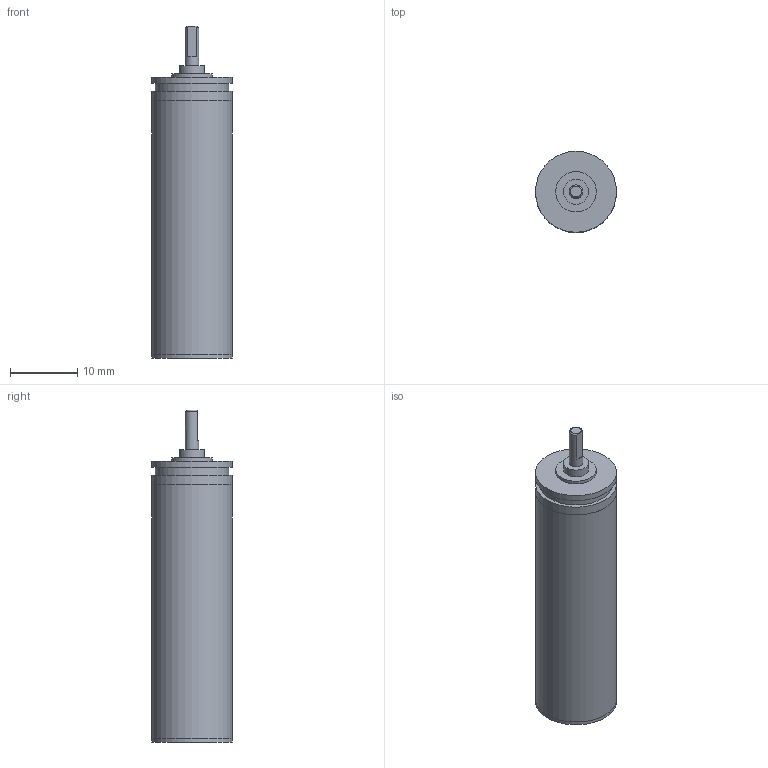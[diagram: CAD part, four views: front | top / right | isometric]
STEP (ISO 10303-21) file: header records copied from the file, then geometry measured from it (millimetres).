
FILE_DESCRIPTION(/* description */ (''),/* implementation_level */ '2;1');
FILE_NAME(/* name */ '12-3K_15.stp',/* time_stamp */ '2016-08-24T10:27:37+02:00',/* author */ ('DR. FRITZ FAULHABER GmbH & Co. KG'),/* organization */ ('DR. FRITZ FAULHABER GmbH & Co. KG'),/* preprocessor_version */ 'ST-DEVELOPER v16',/* originating_system */ 'SIEMENS PLM Software NX 10.0',/* authorisation */ '');
FILE_SCHEMA (('AUTOMOTIVE_DESIGN { 1 0 10303 214 3 1 1 1 }'));
Length unit declared in the file: millimetre
Products named in the file (1): H00000591_A
Bounding box: 12 x 12 x 49.2 mm (x, y, z)
Volume: 4654.2 mm3; surface area: 1956.7 mm2
Topology: 1 solids, 1 shells, 32 faces, 52 edges, 34 vertices
Faces by surface type: plane 16, cylinder 14, cone 2
Full cylindrical faces by diameter (mm): 2 x1, 2.48 x1, 2.6 x1, 3.7 x1, 5 x1, 6 x2, 10.88 x1, 11.99 x2, 12 x4
Entity records: 692 total; most frequent: DIRECTION 129, CARTESIAN_POINT 115, ORIENTED_EDGE 70, AXIS2_PLACEMENT_3D 63, EDGE_LOOP 59, FACE_BOUND 54, EDGE_CURVE 35, ADVANCED_FACE 32
